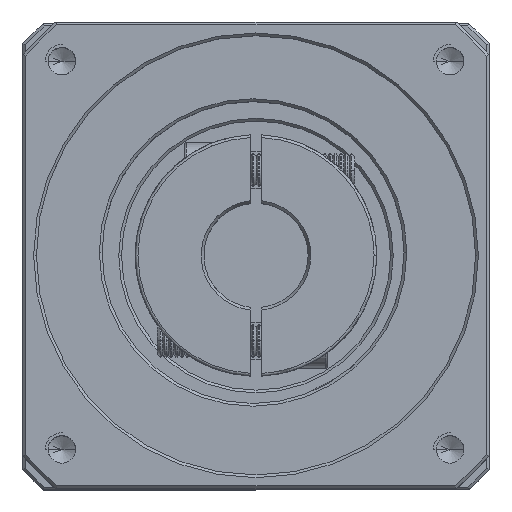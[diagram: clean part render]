
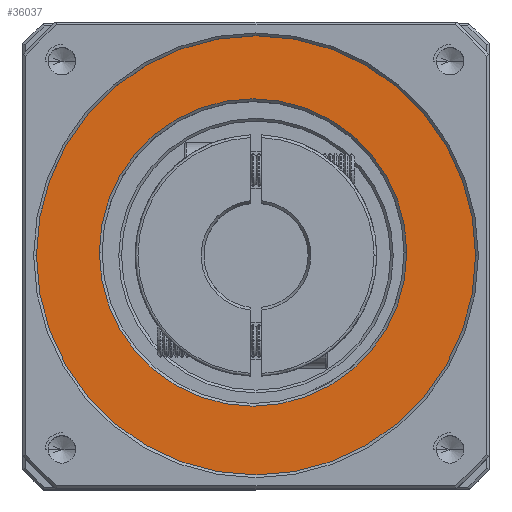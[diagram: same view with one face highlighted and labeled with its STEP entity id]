
A CAD part, top view. The second image highlights one B-rep face of the part: STEP entity #36037.
In plain terms, the highlighted planar face has unit normal (0, 0, 1).
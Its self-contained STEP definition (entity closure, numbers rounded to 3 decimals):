
#2761 = DIRECTION ( 'NONE',  ( 1., 0., 0. ) ) ;
#11285 = FACE_BOUND ( 'NONE', #23932, .T. ) ;
#17585 = AXIS2_PLACEMENT_3D ( 'NONE', #26780, #86073, #35344 ) ;
#23932 = EDGE_LOOP ( 'NONE', ( #50600, #52036 ) ) ;
#26780 = CARTESIAN_POINT ( 'NONE',  ( -93.806, 25.131, 19.207 ) ) ;
#27894 = AXIS2_PLACEMENT_3D ( 'NONE', #100774, #50069, #109205 ) ;
#27941 = EDGE_LOOP ( 'NONE', ( #44444, #47232 ) ) ;
#29154 = CIRCLE ( 'NONE', #102759, 40. ) ;
#30149 = VERTEX_POINT ( 'NONE', #65233 ) ;
#32574 = DIRECTION ( 'NONE',  ( 0., 0., 1. ) ) ;
#33894 = FACE_OUTER_BOUND ( 'NONE', #27941, .T. ) ;
#35344 = DIRECTION ( 'NONE',  ( 1., 0., 0. ) ) ;
#36037 = ADVANCED_FACE ( 'NONE', ( #33894, #11285 ), #66756, .T. ) ;
#36557 = CARTESIAN_POINT ( 'NONE',  ( -133.264, 24.596, 19.207 ) ) ;
#38106 = EDGE_CURVE ( 'NONE', #30149, #105703, #29154, .T. ) ;
#40584 = CIRCLE ( 'NONE', #99081, 28. ) ;
#41893 = EDGE_CURVE ( 'NONE', #80976, #82033, #68391, .T. ) ;
#44444 = ORIENTED_EDGE ( 'NONE', *, *, #38106, .T. ) ;
#47232 = ORIENTED_EDGE ( 'NONE', *, *, #57491, .T. ) ;
#48540 = DIRECTION ( 'NONE',  ( 0., 0., 1. ) ) ;
#50069 = DIRECTION ( 'NONE',  ( 0., 0., 1. ) ) ;
#50600 = ORIENTED_EDGE ( 'NONE', *, *, #41893, .T. ) ;
#52036 = ORIENTED_EDGE ( 'NONE', *, *, #62945, .T. ) ;
#53560 = DIRECTION ( 'NONE',  ( 0., 0., -1. ) ) ;
#53862 = CARTESIAN_POINT ( 'NONE',  ( -121.806, 25.131, 19.207 ) ) ;
#57491 = EDGE_CURVE ( 'NONE', #105703, #30149, #79481, .T. ) ;
#62945 = EDGE_CURVE ( 'NONE', #82033, #80976, #40584, .T. ) ;
#65233 = CARTESIAN_POINT ( 'NONE',  ( -53.264, 24.596, 19.207 ) ) ;
#66756 = PLANE ( 'NONE',  #27894 ) ;
#68391 = CIRCLE ( 'NONE', #17585, 28. ) ;
#79481 = CIRCLE ( 'NONE', #108294, 40. ) ;
#80976 = VERTEX_POINT ( 'NONE', #88512 ) ;
#82033 = VERTEX_POINT ( 'NONE', #53862 ) ;
#83322 = CARTESIAN_POINT ( 'NONE',  ( -93.264, 24.596, 19.207 ) ) ;
#86073 = DIRECTION ( 'NONE',  ( 0., 0., -1. ) ) ;
#88512 = CARTESIAN_POINT ( 'NONE',  ( -65.806, 25.131, 19.207 ) ) ;
#91877 = DIRECTION ( 'NONE',  ( 1., 0., 0. ) ) ;
#99081 = AXIS2_PLACEMENT_3D ( 'NONE', #104216, #53560, #2761 ) ;
#99216 = CARTESIAN_POINT ( 'NONE',  ( -93.264, 24.596, 19.207 ) ) ;
#100774 = CARTESIAN_POINT ( 'NONE',  ( -93.264, 24.596, 19.207 ) ) ;
#102759 = AXIS2_PLACEMENT_3D ( 'NONE', #83322, #32574, #91877 ) ;
#104216 = CARTESIAN_POINT ( 'NONE',  ( -93.806, 25.131, 19.207 ) ) ;
#105703 = VERTEX_POINT ( 'NONE', #36557 ) ;
#107669 = DIRECTION ( 'NONE',  ( 1., 0., 0. ) ) ;
#108294 = AXIS2_PLACEMENT_3D ( 'NONE', #99216, #48540, #107669 ) ;
#109205 = DIRECTION ( 'NONE',  ( 1., 0., 0. ) ) ;
